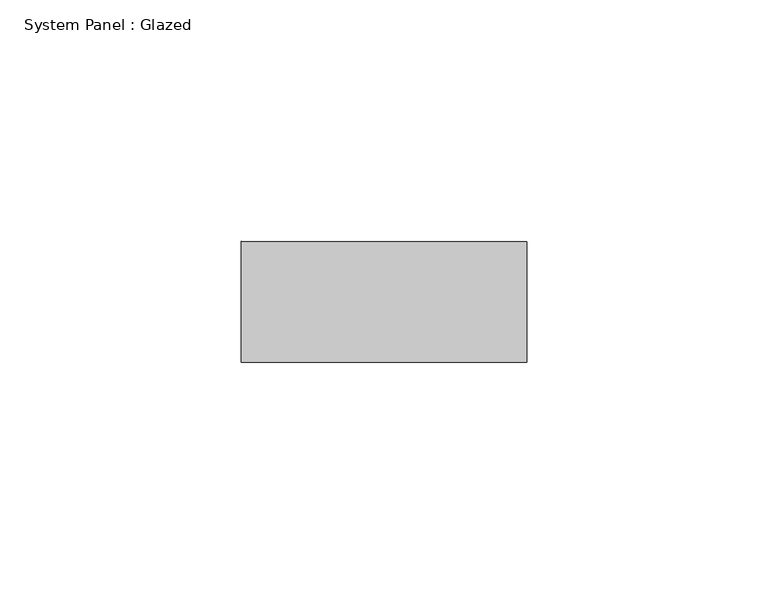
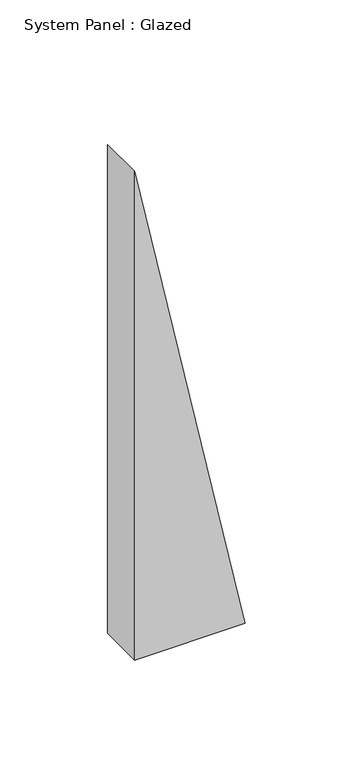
"""IFC4 building model written with IfcOpenShell, lengths in millimetres: plate geometry, System Panel : Glazed."""

from ifc_helpers import new_model, si_unit, frame, origin, place, context, project, spatial, polyline, outline, extrude, source, transform, mapped, element, save


def system_panel_glazed_90b81010(model_context):
    return source(origin(), model_context, "Body", "SweptSolid", [
        extrude(outline(polyline([(0.0, -29.5367313), (0.0, 29.5367313), (276.2496228, -29.5367313), (0.0, -29.5367313)])), frame((0.0, -49.5, 0.0), z_axis=(0.0, 1.0, 0.0), x_axis=(0.0, 0.0, 1.0)), (0.0, 0.0, 1.0), 25.0),
    ])


if __name__ == "__main__":
    model = new_model("IFC4")
    model_context = context("Model", 3, world=origin())
    ifc_project = project(units=[si_unit("LENGTHUNIT", "METRE", prefix="MILLI")], contexts=[model_context])
    site = spatial("IfcSite", under=ifc_project)
    building = spatial("IfcBuilding", under=site)
    placement = place(None, origin())
    system_panel_glazed_shape = system_panel_glazed_90b81010(model_context)
    element("IfcPlate", 1, ObjectType="System Panel : Glazed", at=placement, inside=building, context=model_context, shape_type="MappedRepresentation", body=[
        mapped(system_panel_glazed_shape, transform((0.0, 0.0, 0.0), x_axis=(1.0, 0.0, 0.0), y_axis=(0.0, 1.0, 0.0), z_axis=(0.0, 0.0, 1.0))),
    ])
    save(model, "model.ifc")
